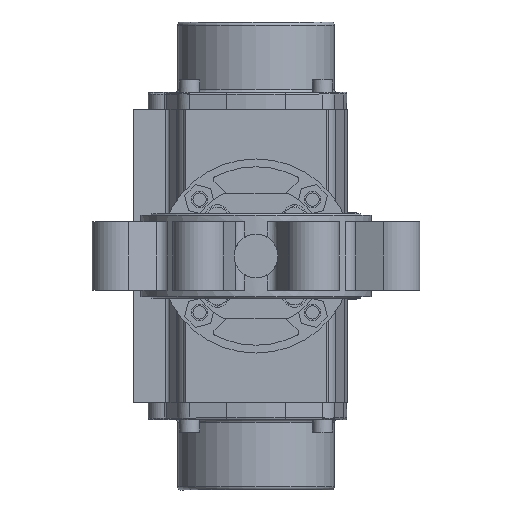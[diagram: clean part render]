
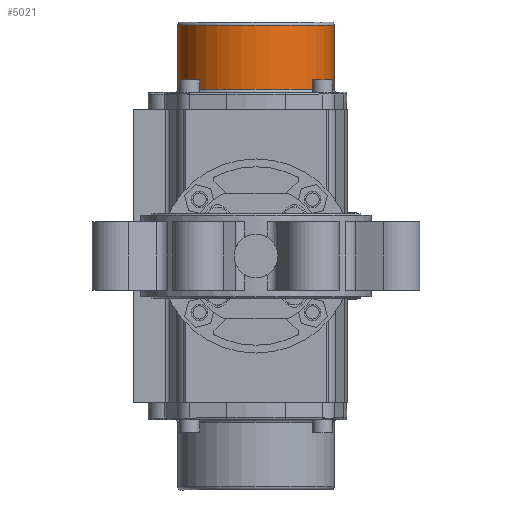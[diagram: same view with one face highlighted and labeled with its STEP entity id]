
A CAD part, front view. The second image highlights one B-rep face of the part: STEP entity #5021.
In plain terms, the highlighted cylindrical face has radius 50 mm (diameter 100 mm), a partial arc.
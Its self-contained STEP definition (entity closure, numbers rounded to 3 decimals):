
#1578 = FACE_OUTER_BOUND ( 'NONE', #4836, .T. ) ;
#1655 = VERTEX_POINT ( 'NONE', #3203 ) ;
#1739 = ORIENTED_EDGE ( 'NONE', *, *, #3137, .T. ) ;
#2142 = EDGE_CURVE ( 'NONE', #1655, #5291, #25499, .T. ) ;
#2571 = DIRECTION ( 'NONE',  ( -1., 0., 0. ) ) ;
#2844 = CARTESIAN_POINT ( 'NONE',  ( 147.5, 0., 0. ) ) ;
#3063 = EDGE_CURVE ( 'NONE', #19393, #23916, #7724, .T. ) ;
#3137 = EDGE_CURVE ( 'NONE', #5291, #19393, #19711, .T. ) ;
#3203 = CARTESIAN_POINT ( 'NONE',  ( 147.5, 0., -50. ) ) ;
#3649 = CARTESIAN_POINT ( 'NONE',  ( 147.5, 0., 50. ) ) ;
#4836 = EDGE_LOOP ( 'NONE', ( #27208, #10123, #1739, #8501 ) ) ;
#5021 = ADVANCED_FACE ( 'NONE', ( #1578 ), #20671, .T. ) ;
#5291 = VERTEX_POINT ( 'NONE', #3649 ) ;
#7724 = CIRCLE ( 'NONE', #20624, 50. ) ;
#8181 = VECTOR ( 'NONE', #2571, 1000. ) ;
#8501 = ORIENTED_EDGE ( 'NONE', *, *, #3063, .T. ) ;
#8718 = CARTESIAN_POINT ( 'NONE',  ( 106.5, 0., 0. ) ) ;
#10123 = ORIENTED_EDGE ( 'NONE', *, *, #2142, .T. ) ;
#12484 = DIRECTION ( 'NONE',  ( 1., 0., 0. ) ) ;
#13550 = EDGE_CURVE ( 'NONE', #1655, #23916, #25310, .T. ) ;
#15639 = DIRECTION ( 'NONE',  ( -1., 0., 0. ) ) ;
#17865 = CARTESIAN_POINT ( 'NONE',  ( 149.5, 0., 50. ) ) ;
#19269 = AXIS2_PLACEMENT_3D ( 'NONE', #2844, #15639, #19437 ) ;
#19306 = DIRECTION ( 'NONE',  ( -1., 0., 0. ) ) ;
#19393 = VERTEX_POINT ( 'NONE', #23960 ) ;
#19437 = DIRECTION ( 'NONE',  ( 0., 0., -1. ) ) ;
#19711 = LINE ( 'NONE', #17865, #8181 ) ;
#20624 = AXIS2_PLACEMENT_3D ( 'NONE', #8718, #12484, #20970 ) ;
#20671 = CYLINDRICAL_SURFACE ( 'NONE', #22408, 50. ) ;
#20970 = DIRECTION ( 'NONE',  ( 0., 0., -1. ) ) ;
#22408 = AXIS2_PLACEMENT_3D ( 'NONE', #22894, #25266, #26979 ) ;
#22894 = CARTESIAN_POINT ( 'NONE',  ( 149.5, 0., 0. ) ) ;
#23635 = CARTESIAN_POINT ( 'NONE',  ( 149.5, 0., -50. ) ) ;
#23916 = VERTEX_POINT ( 'NONE', #25481 ) ;
#23960 = CARTESIAN_POINT ( 'NONE',  ( 106.5, 0., 50. ) ) ;
#24584 = VECTOR ( 'NONE', #19306, 1000. ) ;
#25266 = DIRECTION ( 'NONE',  ( -1., 0., 0. ) ) ;
#25310 = LINE ( 'NONE', #23635, #24584 ) ;
#25481 = CARTESIAN_POINT ( 'NONE',  ( 106.5, 0., -50. ) ) ;
#25499 = CIRCLE ( 'NONE', #19269, 50. ) ;
#26979 = DIRECTION ( 'NONE',  ( 0., 0., 1. ) ) ;
#27208 = ORIENTED_EDGE ( 'NONE', *, *, #13550, .F. ) ;
